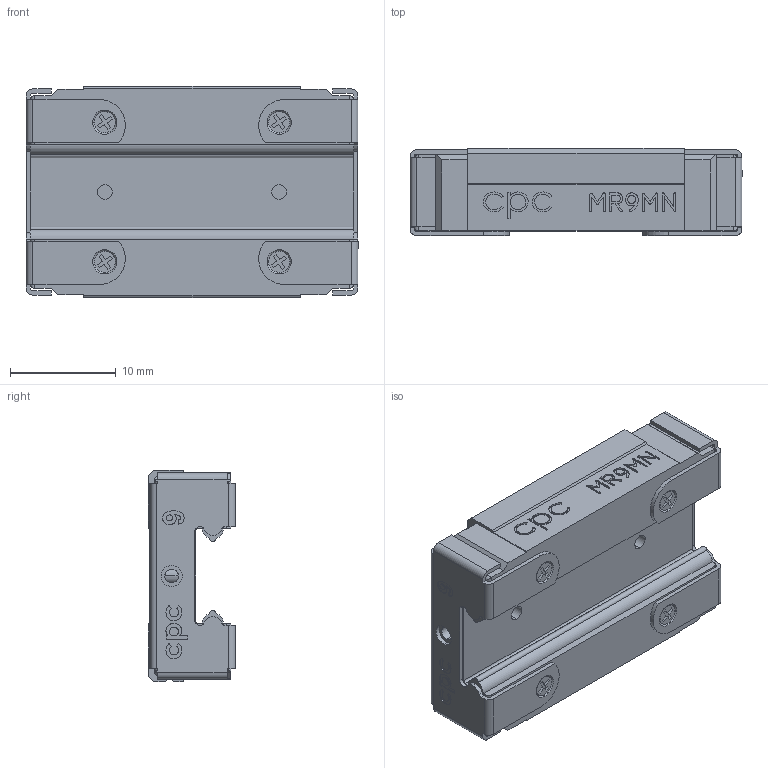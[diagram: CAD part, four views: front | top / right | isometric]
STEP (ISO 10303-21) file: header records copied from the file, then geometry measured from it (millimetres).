
FILE_DESCRIPTION (( 'STEP AP203' ), '1' );
FILE_NAME ('9MN-EE_EZ.STEP', '2009-08-03T01:54:09', ( 'cpc' ), ( '' ), 'SwSTEP 2.0', 'SolidWorks 2007', '' );
FILE_SCHEMA (( 'CONFIG_CONTROL_DESIGN' ));
Length unit declared in the file: millimetre
Products named in the file (5): 9MN-SS_ZZ-block(x1)_預設; MR9M加強片-x1_預設; 9MN-EE_EZ; M1x0.25-screw-2_預設; screwM1.4_預設_預設
Assembly tree (9 placements, depth 2):
  9MN-EE_EZ
    9MN-SS_ZZ-block(x1)_預設
    M1x0.25-screw-2_預設  x4
    screwM1.4_預設_預設  x2
    MR9M加強片-x1_預設  x2
Bounding box: 31.4 x 8.25 x 20 mm (x, y, z)
Volume: 3743.9 mm3; surface area: 3966.2 mm2
Topology: 9 solids, 9 shells, 971 faces, 2615 edges, 1722 vertices
Faces by surface type: plane 397, bspline 384, cylinder 138, cone 52
Entity records: 36932 total; most frequent: CARTESIAN_POINT 20440, ORIENTED_EDGE 3810, DIRECTION 2315, EDGE_CURVE 1905, VERTEX_POINT 1258, VECTOR 1073, LINE 1073, EDGE_LOOP 775
